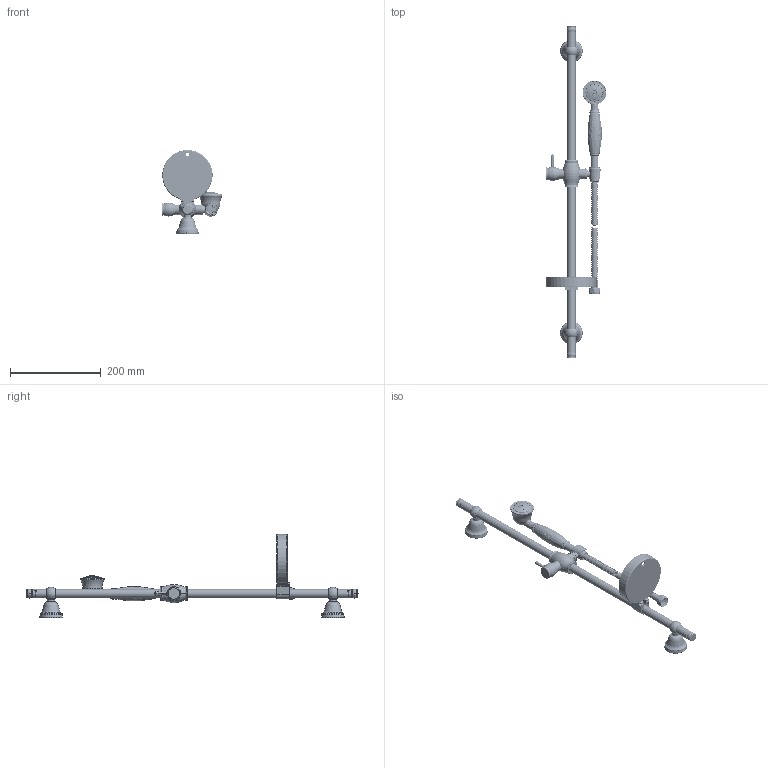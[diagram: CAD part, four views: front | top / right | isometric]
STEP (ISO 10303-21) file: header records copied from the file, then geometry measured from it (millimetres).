
FILE_DESCRIPTION((''),'2;1');
FILE_NAME('76511--00_GEN_ASM','2023-02-02T09:57:35',('sosm1'),(''),'CREO PARAMETRIC BY PTC INC, 2022244','CREO PARAMETRIC BY PTC INC, 2022244','');
FILE_SCHEMA(('CONFIG_CONTROL_DESIGN'));
Length unit declared in the file: millimetre
Products named in the file (42): 46072--; 4607400; 4607500; 4607300; 76605_IGES_SUB02_ASM; 46070--; 46071--; 76605_IGES_SUB01_ASM; 76605_POS1; 76605_POS6; 76605_POS10; 76605_POS2; 76605_POS7; 76605_POS14; 76605_POS9; 76605_POS3; 42323--_SUB01_ASM; 2390500; 2390800; 23908_SUB01_ASM; 76605_IGES_SOLEX_ASM; 76605_GEN_SUB01_ASM; 43839--_ASM; 76650_POS11; 76650_POS12; 76650_POS1; 76650_POS3; 76650_POS6; 76652--00_ASM; 76511--00_GEN_TLB_ASM; 19291--_POS1; 19291--_POS2; 19291--_POS3; 19291--_POS4; 19291--_POS5; 19291--_POS6; 19291--_POS7; 19291--_POS8; 19291--_SUB02_ASM; 46058--_ASM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
Assembly tree (43 placements, depth 6):
  76511--00_GEN_ASM
    43839--_ASM
      76605_GEN_SUB01_ASM
        76605_IGES_SOLEX_ASM
          76605_IGES_SUB02_ASM  x2
            46072--
            4607400
            4607500
            4607300
          76605_IGES_SUB01_ASM
            46070--
            46071--  x2
          42323--_SUB01_ASM
            76605_POS1
            76605_POS6
            76605_POS10
            76605_POS2
            76605_POS7
            76605_POS14
            76605_POS9
            76605_POS3
          23908_SUB01_ASM
            2390500
            2390800
    76511--00_GEN_TLB_ASM
      76652--00_ASM
        76650_POS11
        76650_POS12
        76650_POS1
        76650_POS3
        76650_POS6
    19291--_ASM
      46058--_ASM
        19291--_POS1
        19291--_POS2
        19291--_POS3
        19291--_POS4
        19291--_POS5
        19291--_POS6
        19291--_SUB02_ASM
          19291--_POS7
          19291--_POS8
Bounding box: 134.1 x 730.45 x 184.3 mm (x, y, z)
Volume: 271254.8 mm3; surface area: 280945.8 mm2
Topology: 35 solids, 35 shells, 1920 faces, 5147 edges, 3313 vertices
Faces by surface type: cylinder 888, plane 426, bspline 209, torus 188, cone 152, revolution 28, sphere 28, extrusion 1
Entity records: 107524 total; most frequent: CARTESIAN_POINT 69167, ORIENTED_EDGE 8496, DIRECTION 6895, EDGE_CURVE 4248, VERTEX_POINT 2727, AXIS2_PLACEMENT_3D 2688, EDGE_LOOP 1809, FACE_OUTER_BOUND 1613
